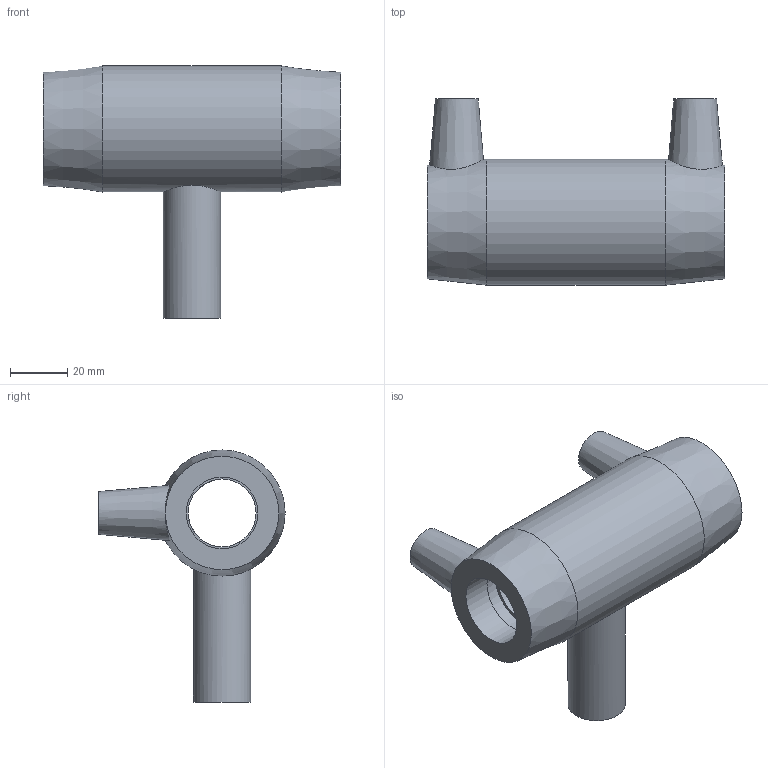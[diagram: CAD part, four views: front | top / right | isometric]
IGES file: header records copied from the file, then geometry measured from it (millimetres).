
Global section: file name: 491404025020.ipt; native system: Autodesk Inventor 2015; preprocessor: unknown; author: KIM; date: 20190909.112815; units: millimetre
Bounding box: 104 x 65 x 88 mm (x, y, z)
Volume: 113124.4 mm3; surface area: 32626.2 mm2
Topology: 1 solids, 1 shells, 31 faces, 72 edges, 52 vertices
Faces by surface type: plane 13, revolution 10, cylinder 4, cone 4
Full cylindrical faces by diameter (mm): 4 x2, 20 x1, 44 x1
